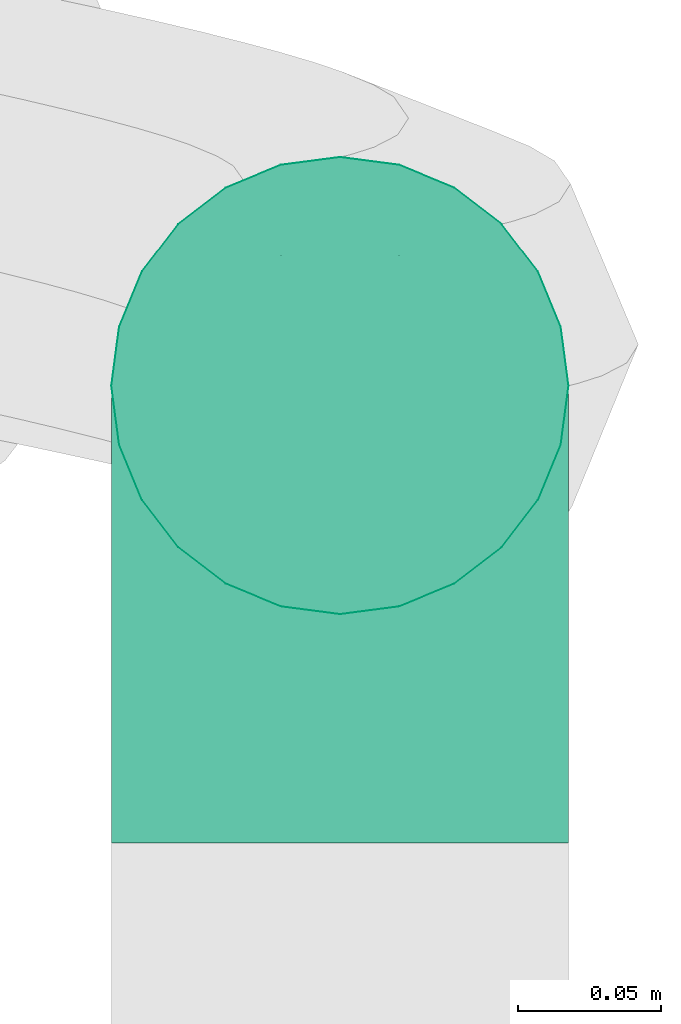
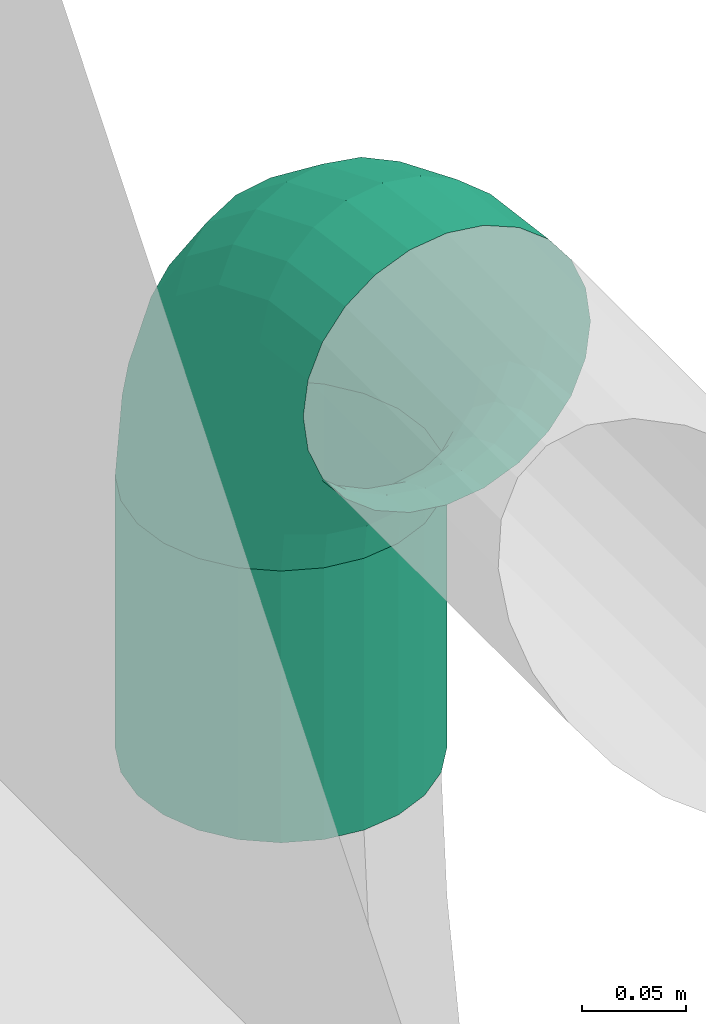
# One storey, part 161 of 374: 1 flow fitting, 1 flow segment.
"""IFC2X3 building model written with IfcOpenShell, lengths in metres."""

from ifc_helpers import new_model, si_unit, direction, origin, place, context, subcontext, project, spatial, open_shell, surface_model, source, transform, mapped, element, save


model = new_model("IFC2X3")

# Units and contexts
model_context = context("Model", 3, precision=1e-05, world=origin(), true_north=direction((-0.4480736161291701, 0.8939966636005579)))
body_context = subcontext(model_context, "Body", "Model", "MODEL_VIEW")
ifc_project = project(units=[si_unit("LENGTHUNIT", "METRE"), si_unit("AREAUNIT", "SQUARE_METRE"), si_unit("VOLUMEUNIT", "CUBIC_METRE"), si_unit("PLANEANGLEUNIT", "RADIAN"), si_unit("THERMODYNAMICTEMPERATUREUNIT", "KELVIN"), si_unit("MASSUNIT", "GRAM", prefix="KILO"), si_unit("TIMEUNIT", "SECOND")], contexts=[model_context])

# Site, building, storey
site_placement = place(None, origin())
site = spatial("IfcSite", under=ifc_project, at=site_placement, Name="Site 1", CompositionType="ELEMENT")
building_placement = place(site_placement, origin())
building = spatial("IfcBuilding", under=site, at=building_placement, Name="Undefined", CompositionType="ELEMENT")
storey_placement = place(building_placement, origin())
storey = spatial("IfcBuildingStorey", under=building, at=storey_placement, Name="Rez de chauss\x8ee", CompositionType="ELEMENT", Elevation=0.0)

# Flow fitting
shared_shape_1 = source(origin(), body_context, "Body", "SurfaceModel", [
    surface_model("IfcFaceBasedSurfaceModel", [(0.06265257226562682, -8.8817842e-16, 0.0), (0.062296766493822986, 0.02088115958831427, -7.105427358e-15), (0.0003558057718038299, 0.020881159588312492, 7.105427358e-15), (0.0, 0.0, 0.0), (-0.059474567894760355, 0.022956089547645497, -0.015896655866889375), (-0.06051773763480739, 0.002098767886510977, -0.01607928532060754), (-0.11311701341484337, 0.02696454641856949, -0.04660663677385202), (-0.11477645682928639, 0.006153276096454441, -0.04714207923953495), (-0.15691588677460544, 0.0326333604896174, -0.09003710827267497), (-0.15907851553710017, 0.01188721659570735, -0.09107150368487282), (-0.18788636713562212, 0.03957621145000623, -0.14322835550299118), (-0.1904048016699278, 0.01890983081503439, -0.14487384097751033), (-0.2039178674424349, 0.04731995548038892, -0.20255548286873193), (-0.20662048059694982, 0.026742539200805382, -0.20488255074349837), (0.061253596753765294, 0.04103889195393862, -0.0053597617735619), (0.0013989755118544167, 0.04103889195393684, -0.005359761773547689), (-0.05641614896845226, 0.04304393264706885, -0.02072097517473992), (-0.10825177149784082, 0.04691737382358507, -0.050396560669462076), (-0.15057538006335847, 0.05239524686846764, -0.09236417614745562), (-0.18050269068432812, 0.05910424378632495, -0.14376379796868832), (-0.19599420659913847, 0.06658715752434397, -0.20109262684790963), (0.05959415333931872, 0.05909948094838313, -0.01571402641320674), (0.003058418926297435, 0.05909948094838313, -0.01571402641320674), (-0.05155090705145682, 0.06099334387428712, -0.030223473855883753), (-0.10051228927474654, 0.06465200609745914, -0.058253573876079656), (-0.1404890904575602, 0.0698261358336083, -0.09789412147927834), (-0.16875695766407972, 0.0761631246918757, -0.14644367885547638), (-0.18338948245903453, 0.08323111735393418, -0.2005936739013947), (0.057431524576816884, 0.07383212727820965, -0.030357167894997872), (0.005221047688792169, 0.07383212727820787, -0.03035716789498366), (-0.0452104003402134, 0.07558110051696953, -0.04375657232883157), (-0.09042599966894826, 0.07895985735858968, -0.06964223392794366), (-0.12734438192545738, 0.08373814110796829, -0.10625008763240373), (-0.15344962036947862, 0.08959031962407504, -0.15108536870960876), (-0.16696268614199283, 0.0961175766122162, -0.20109262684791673), (0.054913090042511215, 0.0842328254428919, -0.048291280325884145), (0.007739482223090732, 0.08423282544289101, -0.04829128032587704), (-0.037826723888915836, 0.08581307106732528, -0.06039801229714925), (-0.07868026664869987, 0.08886587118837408, -0.08378642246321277), (-0.11203704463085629, 0.09318318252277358, -0.11686262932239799), (-0.13562384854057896, 0.09847078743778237, -0.1573725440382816), (-0.14783327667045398, 0.10436834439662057, -0.20255548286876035), (0.05221047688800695, 0.0895927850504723, -0.06829418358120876), (0.010442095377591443, 0.08959278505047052, -0.06829418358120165), (-0.029903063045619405, 0.09099196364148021, -0.07901370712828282), (-0.06607554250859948, 0.09369496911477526, -0.0997222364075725), (-0.0956102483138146, 0.0975175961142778, -0.12900851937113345), (-0.11649443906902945, 0.10219933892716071, -0.16487674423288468), (-0.12730489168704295, 0.1074211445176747, -0.2048825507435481), (0.04950786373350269, 0.08954673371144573, -0.08900271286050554), (0.013144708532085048, 0.08954673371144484, -0.08900271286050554), (-0.02197940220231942, 0.09076484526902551, -0.09833502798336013), (-0.05347081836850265, 0.09311805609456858, -0.11636367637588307), (-0.0791834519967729, 0.09644599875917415, -0.14186003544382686), (-0.09736502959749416, 0.10052187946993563, -0.17308657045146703), (-0.10677650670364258, 0.1050679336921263, -0.20791524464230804), (0.04698942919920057, 0.08409780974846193, -0.10900561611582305), (0.015663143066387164, 0.08409780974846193, -0.10900561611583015), (-0.014595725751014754, 0.08514719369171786, -0.11704525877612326), (-0.0417250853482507, 0.0871744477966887, -0.13257665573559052), (-0.06387611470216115, 0.09004141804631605, -0.15454136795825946), (-0.07953925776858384, 0.09355272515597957, -0.1814425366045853), (-0.08764709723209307, 0.09746907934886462, -0.21144689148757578), (0.04482680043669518, 0.0736173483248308, -0.12693972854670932), (0.017825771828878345, 0.0736173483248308, -0.12693972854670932), (-0.008255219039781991, 0.07452184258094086, -0.13386932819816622), (-0.03163879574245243, 0.0762691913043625, -0.14725628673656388), (-0.050731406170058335, 0.07874031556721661, -0.1661883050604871), (-0.06423192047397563, 0.08176681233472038, -0.18937519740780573), (-0.07122030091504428, 0.08514243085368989, -0.21523681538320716), (0.04316735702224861, 0.058819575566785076, -0.14158287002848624), (0.019485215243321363, 0.058819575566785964, -0.14158287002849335), (-0.0033899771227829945, 0.05961289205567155, -0.14766070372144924), (-0.02389931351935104, 0.06114546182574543, -0.15940217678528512), (-0.04064511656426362, 0.06331284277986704, -0.17600712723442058), (-0.052486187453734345, 0.06596733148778, -0.19634395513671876), (-0.05861557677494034, 0.06892802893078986, -0.2190267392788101), (0.04212418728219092, 0.040712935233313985, -0.15193713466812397), (0.020528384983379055, 0.040712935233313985, -0.15193713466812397), (-0.0003315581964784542, 0.041436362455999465, -0.15747952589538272), (-0.019034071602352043, 0.04283391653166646, -0.16818660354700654), (-0.03430460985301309, 0.04481035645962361, -0.1833286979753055), (-0.04510251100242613, 0.047230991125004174, -0.20187390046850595), (-0.05069191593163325, 0.04993085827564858, -0.22255838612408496), (0.04176838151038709, 0.02053136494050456, -0.15729689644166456), (0.020884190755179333, 0.02053136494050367, -0.15729689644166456), (0.0007116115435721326, 0.021230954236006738, -0.16265665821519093), (-0.017374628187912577, 0.022582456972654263, -0.17301092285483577), (-0.03214198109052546, 0.024493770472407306, -0.1876540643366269), (-0.042584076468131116, 0.026834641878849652, -0.20558817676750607), (-0.04798930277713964, 0.02944554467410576, -0.22559108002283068), (0.04212418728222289, -0.000349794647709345, -0.15729689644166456), (0.02052838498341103, -0.000349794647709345, -0.15729689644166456), (-0.0003315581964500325, 0.00037363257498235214, -0.16283928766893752), (-0.019034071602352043, 0.0017711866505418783, -0.17354636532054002), (-0.03430460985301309, 0.0037476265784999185, -0.18868845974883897), (-0.04510251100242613, 0.00616826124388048, -0.20723366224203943), (-0.05069191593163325, 0.008868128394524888, -0.22791814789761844), (0.04316735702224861, -0.020507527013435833, -0.15193713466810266), (0.019485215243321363, -0.020507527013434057, -0.15193713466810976), (-0.0033899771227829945, -0.019714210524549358, -0.15801496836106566), (-0.02389931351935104, -0.01818164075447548, -0.16975644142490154), (-0.04064511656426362, -0.01601425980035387, -0.186361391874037), (-0.052486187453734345, -0.013359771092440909, -0.20669821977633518), (-0.05861557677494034, -0.010399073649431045, -0.22938100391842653), (0.04482680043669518, -0.03856811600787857, -0.1415828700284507), (0.017825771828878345, -0.03856811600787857, -0.1415828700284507), (-0.008255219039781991, -0.03766362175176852, -0.1485124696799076), (-0.03163879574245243, -0.03591627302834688, -0.16189942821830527), (-0.050731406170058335, -0.03344514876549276, -0.1808314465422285), (-0.06423192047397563, -0.030418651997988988, -0.20401833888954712), (-0.07122030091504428, -0.027043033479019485, -0.22987995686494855), (0.04698942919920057, -0.05330076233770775, -0.12693972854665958), (0.015663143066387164, -0.05330076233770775, -0.12693972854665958), (-0.014595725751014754, -0.05225137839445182, -0.1349793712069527), (-0.0417250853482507, -0.05022412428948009, -0.15051076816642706), (-0.06387611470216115, -0.047357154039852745, -0.172475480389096), (-0.07953925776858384, -0.043845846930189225, -0.19937664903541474), (-0.08764709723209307, -0.03992949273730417, -0.2293810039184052), (0.04950786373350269, -0.06370146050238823, -0.10900561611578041), (0.013144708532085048, -0.06370146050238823, -0.10900561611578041), (-0.02197940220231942, -0.06248334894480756, -0.11833793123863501), (-0.05347081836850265, -0.06013013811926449, -0.13636657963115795), (-0.0791834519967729, -0.05680219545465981, -0.16186293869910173), (-0.09736502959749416, -0.05272631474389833, -0.1930894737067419), (-0.10677650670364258, -0.04818026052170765, -0.2279181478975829), (0.05221047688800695, -0.06906142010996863, -0.08900271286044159), (0.010442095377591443, -0.06906142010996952, -0.08900271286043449), (-0.029903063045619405, -0.06766224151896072, -0.09972223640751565), (-0.06607554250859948, -0.06495923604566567, -0.12043076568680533), (-0.0956102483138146, -0.06113660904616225, -0.14971704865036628), (-0.11649443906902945, -0.05645486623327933, -0.1855852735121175), (-0.12730489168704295, -0.05123306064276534, -0.22559108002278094), (0.054913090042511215, -0.06901536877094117, -0.06829418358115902), (0.007739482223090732, -0.06901536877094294, -0.06829418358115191), (-0.037826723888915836, -0.06743512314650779, -0.08040091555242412), (-0.07868026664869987, -0.06438232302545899, -0.10378932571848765), (-0.11203704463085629, -0.06006501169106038, -0.13686553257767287), (-0.13562384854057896, -0.0547774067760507, -0.17737544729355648), (-0.14783327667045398, -0.04887984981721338, -0.22255838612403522), (0.057431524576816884, -0.06356644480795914, -0.0482912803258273), (0.005221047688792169, -0.06356644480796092, -0.04829128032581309), (-0.0452104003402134, -0.061817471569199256, -0.0616906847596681), (-0.09042599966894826, -0.05843871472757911, -0.0875763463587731), (-0.12734438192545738, -0.05366043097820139, -0.12418420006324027), (-0.15344962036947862, -0.04780825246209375, -0.1690194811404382), (-0.16696268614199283, -0.041280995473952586, -0.21902673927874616), (0.05959415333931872, -0.05308598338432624, -0.030357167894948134), (0.003058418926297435, -0.05308598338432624, -0.030357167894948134), (-0.05155090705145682, -0.05119212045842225, -0.04486661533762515), (-0.10051228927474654, -0.04753345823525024, -0.07289671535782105), (-0.1404890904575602, -0.04235932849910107, -0.11253726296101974), (-0.16875695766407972, -0.03602233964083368, -0.16108682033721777), (-0.18338948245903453, -0.02895434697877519, -0.2152368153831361), (0.061253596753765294, -0.03828821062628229, -0.015714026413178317), (0.0013989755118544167, -0.03828821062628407, -0.015714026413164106), (-0.05641614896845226, -0.03628316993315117, -0.031075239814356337), (-0.10825177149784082, -0.03240972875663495, -0.06075082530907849), (-0.15057538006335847, -0.026931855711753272, -0.10271844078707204), (-0.18050269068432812, -0.02022285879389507, -0.15411806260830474), (-0.19599420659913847, -0.012739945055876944, -0.21144689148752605), (0.062296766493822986, -0.020181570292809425, -0.005359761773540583), (0.0003558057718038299, -0.020181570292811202, -0.0053597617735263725), (-0.059474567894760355, -0.018106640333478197, -0.021256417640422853), (-0.11311701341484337, -0.014098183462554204, -0.051966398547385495), (-0.15691588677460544, -0.00842936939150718, -0.09539687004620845), (-0.18788636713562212, -0.0014865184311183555, -0.14858811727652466), (-0.2039178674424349, 0.006257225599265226, -0.2079152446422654)], [open_shell([[[0, 1, 2, 3]], [[3, 2, 4, 5]], [[5, 4, 6, 7]], [[7, 6, 8, 9]], [[9, 8, 10, 11]], [[11, 10, 12, 13]], [[1, 14, 15, 2]], [[2, 15, 16, 4]], [[4, 16, 17, 6]], [[6, 17, 18, 8]], [[8, 18, 19, 10]], [[10, 19, 20, 12]], [[14, 21, 22, 15]], [[15, 22, 23, 16]], [[16, 23, 24, 17]], [[17, 24, 25, 18]], [[18, 25, 26, 19]], [[19, 26, 27, 20]], [[21, 28, 29, 22]], [[22, 29, 30, 23]], [[23, 30, 31, 24]], [[24, 31, 32, 25]], [[25, 32, 33, 26]], [[26, 33, 34, 27]], [[28, 35, 36, 29]], [[29, 36, 37, 30]], [[30, 37, 38, 31]], [[31, 38, 39, 32]], [[32, 39, 40, 33]], [[33, 40, 41, 34]], [[35, 42, 43, 36]], [[36, 43, 44, 37]], [[37, 44, 45, 38]], [[38, 45, 46, 39]], [[39, 46, 47, 40]], [[40, 47, 48, 41]], [[42, 49, 50, 43]], [[43, 50, 51, 44]], [[44, 51, 52, 45]], [[45, 52, 53, 46]], [[46, 53, 54, 47]], [[47, 54, 55, 48]], [[49, 56, 57, 50]], [[50, 57, 58, 51]], [[51, 58, 59, 52]], [[52, 59, 60, 53]], [[53, 60, 61, 54]], [[54, 61, 62, 55]], [[56, 63, 64, 57]], [[57, 64, 65, 58]], [[58, 65, 66, 59]], [[59, 66, 67, 60]], [[60, 67, 68, 61]], [[61, 68, 69, 62]], [[63, 70, 71, 64]], [[64, 71, 72, 65]], [[65, 72, 73, 66]], [[66, 73, 74, 67]], [[67, 74, 75, 68]], [[68, 75, 76, 69]], [[70, 77, 78, 71]], [[71, 78, 79, 72]], [[72, 79, 80, 73]], [[73, 80, 81, 74]], [[74, 81, 82, 75]], [[75, 82, 83, 76]], [[77, 84, 85, 78]], [[78, 85, 86, 79]], [[79, 86, 87, 80]], [[80, 87, 88, 81]], [[81, 88, 89, 82]], [[82, 89, 90, 83]], [[84, 91, 92, 85]], [[85, 92, 93, 86]], [[86, 93, 94, 87]], [[87, 94, 95, 88]], [[88, 95, 96, 89]], [[89, 96, 97, 90]], [[91, 98, 99, 92]], [[92, 99, 100, 93]], [[93, 100, 101, 94]], [[94, 101, 102, 95]], [[95, 102, 103, 96]], [[96, 103, 104, 97]], [[98, 105, 106, 99]], [[99, 106, 107, 100]], [[100, 107, 108, 101]], [[101, 108, 109, 102]], [[102, 109, 110, 103]], [[103, 110, 111, 104]], [[105, 112, 113, 106]], [[106, 113, 114, 107]], [[107, 114, 115, 108]], [[108, 115, 116, 109]], [[109, 116, 117, 110]], [[110, 117, 118, 111]], [[112, 119, 120, 113]], [[113, 120, 121, 114]], [[114, 121, 122, 115]], [[115, 122, 123, 116]], [[116, 123, 124, 117]], [[117, 124, 125, 118]], [[119, 126, 127, 120]], [[120, 127, 128, 121]], [[121, 128, 129, 122]], [[122, 129, 130, 123]], [[123, 130, 131, 124]], [[124, 131, 132, 125]], [[126, 133, 134, 127]], [[127, 134, 135, 128]], [[128, 135, 136, 129]], [[129, 136, 137, 130]], [[130, 137, 138, 131]], [[131, 138, 139, 132]], [[133, 140, 141, 134]], [[134, 141, 142, 135]], [[135, 142, 143, 136]], [[136, 143, 144, 137]], [[137, 144, 145, 138]], [[138, 145, 146, 139]], [[140, 147, 148, 141]], [[141, 148, 149, 142]], [[142, 149, 150, 143]], [[143, 150, 151, 144]], [[144, 151, 152, 145]], [[145, 152, 153, 146]], [[147, 154, 155, 148]], [[148, 155, 156, 149]], [[149, 156, 157, 150]], [[150, 157, 158, 151]], [[151, 158, 159, 152]], [[152, 159, 160, 153]], [[154, 161, 162, 155]], [[155, 162, 163, 156]], [[156, 163, 164, 157]], [[157, 164, 165, 158]], [[158, 165, 166, 159]], [[159, 166, 167, 160]], [[161, 0, 3, 162]], [[162, 3, 5, 163]], [[163, 5, 7, 164]], [[164, 7, 9, 165]], [[165, 9, 11, 166]], [[166, 11, 13, 167]]])]),
])
flow_fitting_placement = place(storey_placement, origin())
element("IfcFlowFitting", 1, at=flow_fitting_placement, inside=storey, Name="Coude", ObjectType="Coude", context=body_context, shape_type="MappedRepresentation", body=[
    mapped(shared_shape_1, transform((52.51590211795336, 16.94411754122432, 3.7021165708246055), x_axis=(0.0, 0.13052619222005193, -0.9914448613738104), y_axis=(-0.9915887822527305, -0.12832103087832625, -0.016893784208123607), z_axis=(-0.12942830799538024, 0.9831056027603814, 0.12942830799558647))),
])

# Flow segment
shared_shape_2 = source(origin(), body_context, "Body", "SurfaceModel", [
    surface_model("IfcFaceBasedSurfaceModel", [(0.0, 0.020884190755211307, 0.0), (0.0, 0.0, 0.0), (0.16000000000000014, 0.0, -4.4408921e-16), (0.16000000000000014, 0.0208841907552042, -4.4408921e-16), (0.0, -0.020172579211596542, -0.005405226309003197), (0.16000000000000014, -0.020172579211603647, -0.005405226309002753), (0.0, -0.03825881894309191, -0.015847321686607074), (0.16000000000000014, -0.03825881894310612, -0.015847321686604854), (0.0, -0.05302617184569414, -0.0306146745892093), (0.16000000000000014, -0.05302617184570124, -0.03061467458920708), (0.0, -0.06346826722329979, -0.04870091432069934), (0.16000000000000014, -0.0634682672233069, -0.04870091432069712), (0.0, -0.06887349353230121, -0.06887349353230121), (0.16000000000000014, -0.06887349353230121, -0.06887349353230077), (0.0, -0.06887349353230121, -0.08975768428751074), (0.16000000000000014, -0.06887349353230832, -0.08975768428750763), (0.0, -0.06346826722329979, -0.10993026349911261), (0.16000000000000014, -0.0634682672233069, -0.10993026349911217), (0.0, -0.05302617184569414, -0.12801650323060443), (0.16000000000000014, -0.05302617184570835, -0.1280165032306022), (0.0, -0.038258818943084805, -0.14278385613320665), (0.16000000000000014, -0.03825881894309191, -0.14278385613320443), (0.0, -0.020172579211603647, -0.15322595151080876), (0.16000000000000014, -0.020172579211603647, -0.1532259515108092), (0.0, 7.105427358e-15, -0.15863117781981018), (0.16000000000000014, -7.105427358e-15, -0.15863117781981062), (0.0, 0.020884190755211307, -0.15863117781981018), (0.16000000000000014, 0.0208841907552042, -0.15863117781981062), (0.0, 0.04105676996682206, -0.15322595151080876), (0.16000000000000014, 0.04105676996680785, -0.1532259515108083), (0.0, 0.05914300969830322, -0.1427838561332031), (0.16000000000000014, 0.05914300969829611, -0.14278385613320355), (0.0, 0.07391036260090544, -0.12801650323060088), (0.16000000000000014, 0.07391036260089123, -0.1280165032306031), (0.0, 0.0843524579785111, -0.10993026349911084), (0.16000000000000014, 0.08435245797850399, -0.10993026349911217), (0.0, 0.08975768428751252, -0.08975768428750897), (0.16000000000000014, 0.08975768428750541, -0.08975768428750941), (0.0, 0.08975768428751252, -0.06887349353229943), (0.16000000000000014, 0.08975768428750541, -0.06887349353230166), (0.0, 0.0843524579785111, -0.048700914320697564), (0.16000000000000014, 0.08435245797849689, -0.04870091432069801), (0.0, 0.07391036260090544, -0.030614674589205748), (0.16000000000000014, 0.07391036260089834, -0.03061467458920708), (0.0, 0.05914300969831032, -0.015847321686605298), (0.16000000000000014, 0.05914300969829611, -0.01584732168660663), (0.0, 0.04105676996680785, -0.005405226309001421), (0.16000000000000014, 0.04105676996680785, -0.005405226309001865)], [open_shell([[[0, 1, 2, 3]], [[1, 4, 5, 2]], [[4, 6, 7, 5]], [[6, 8, 9, 7]], [[8, 10, 11, 9]], [[10, 12, 13, 11]], [[12, 14, 15, 13]], [[14, 16, 17, 15]], [[16, 18, 19, 17]], [[18, 20, 21, 19]], [[20, 22, 23, 21]], [[22, 24, 25, 23]], [[24, 26, 27, 25]], [[26, 28, 29, 27]], [[28, 30, 31, 29]], [[30, 32, 33, 31]], [[32, 34, 35, 33]], [[34, 36, 37, 35]], [[36, 38, 39, 37]], [[38, 40, 41, 39]], [[40, 42, 43, 41]], [[42, 44, 45, 43]], [[44, 46, 47, 45]], [[46, 0, 3, 47]]])]),
])
flow_segment_placement = place(storey_placement, origin())
element("IfcFlowSegment", 2, at=flow_segment_placement, inside=storey, Name="Tube", ObjectType="Tube", context=body_context, shape_type="MappedRepresentation", body=[
    mapped(shared_shape_2, transform((52.53660764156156, 16.795021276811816, 3.4800000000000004), x_axis=(0.0, 0.0, 1.0), y_axis=(-0.9914448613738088, -0.13052619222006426, 0.0), z_axis=(0.13052619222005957, -0.9914448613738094, 0.0))),
])

save(model, "model.ifc")
